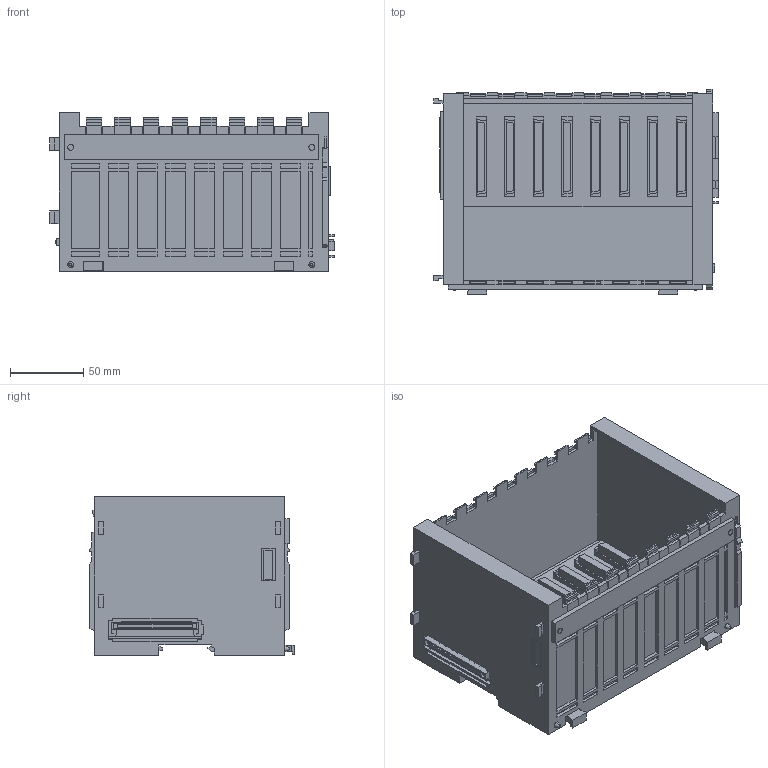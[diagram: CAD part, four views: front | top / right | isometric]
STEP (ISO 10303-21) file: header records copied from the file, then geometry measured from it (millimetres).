
FILE_DESCRIPTION (( 'STEP AP203' ), '1' );
FILE_NAME ('jepmc_bub3008_e.STEP', '2012-09-07T04:20:21', ( '匠エンジニアリング山之内' ), ( 'TAKUMI-Engniaring' ), 'SwSTEP 2.0', 'SolidWorks 2006303', '' );
FILE_SCHEMA (( 'CONFIG_CONTROL_DESIGN' ));
Length unit declared in the file: millimetre
Products named in the file (1): jepmc_bub3008_e
Bounding box: 193.7 x 140 x 108 mm (x, y, z)
Volume: 522376.9 mm3; surface area: 207992.8 mm2
Topology: 1 solids, 1 shells, 1059 faces, 2838 edges, 1888 vertices
Faces by surface type: plane 1047, cylinder 8, cone 4
Entity records: 32469 total; most frequent: CARTESIAN_POINT 5786, ORIENTED_EDGE 5676, DIRECTION 4986, EDGE_CURVE 2838, LINE 2810, VECTOR 2810, VERTEX_POINT 1888, EDGE_LOOP 1180
